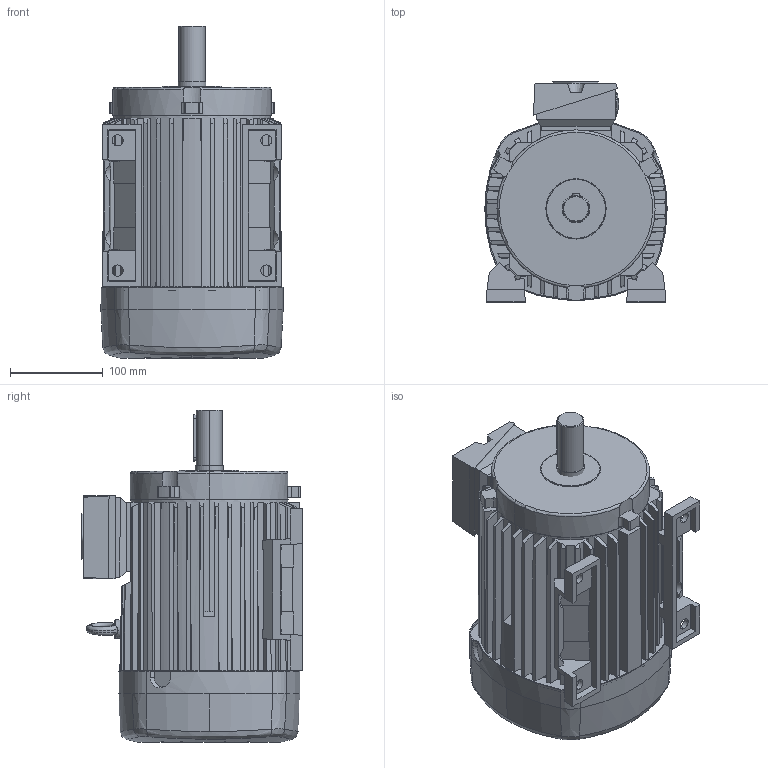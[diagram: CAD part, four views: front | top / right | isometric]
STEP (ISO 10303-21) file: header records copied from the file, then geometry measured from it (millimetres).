
FILE_DESCRIPTION (( 'STEP AP214' ), '1' );
FILE_NAME ('K_R_GF100S-100_B3_28x60.STEP', '2016-06-21T12:18:26', ( '' ), ( '' ), 'SwSTEP 2.0', 'SolidWorks 2013', '' );
FILE_SCHEMA (( 'AUTOMOTIVE_DESIGN' ));
Length unit declared in the file: millimetre
Products named in the file (10): GF100S_100_Kat; Ringschraube_M8; LD_Kat_LD10; KA05_komplett_Kat; KD05_Kat; Verschluß_Kat; KA05_Kat; WE_Kat_28x60; LHB_Kat_LHB10; K_R_GF100S-100_B3_28x60
Assembly tree (9 placements, depth 3):
  K_R_GF100S-100_B3_28x60
    LHB_Kat_LHB10
    WE_Kat_28x60
    KA05_komplett_Kat
      KA05_Kat
      Verschluß_Kat
      KD05_Kat
    LD_Kat_LD10
    Ringschraube_M8
    GF100S_100_Kat
Bounding box: 196 x 236.96 x 357 mm (x, y, z)
Volume: 8449117.8 mm3; surface area: 572248.3 mm2
Topology: 10 solids, 10 shells, 532 faces, 1417 edges, 913 vertices
Faces by surface type: plane 336, cylinder 86, cone 80, bspline 16, torus 12, sphere 2
Entity records: 22343 total; most frequent: CARTESIAN_POINT 5363, ORIENTED_EDGE 2834, DIRECTION 2518, EDGE_CURVE 1417, VERTEX_POINT 913, AXIS2_PLACEMENT_3D 852, VECTOR 814, LINE 814
